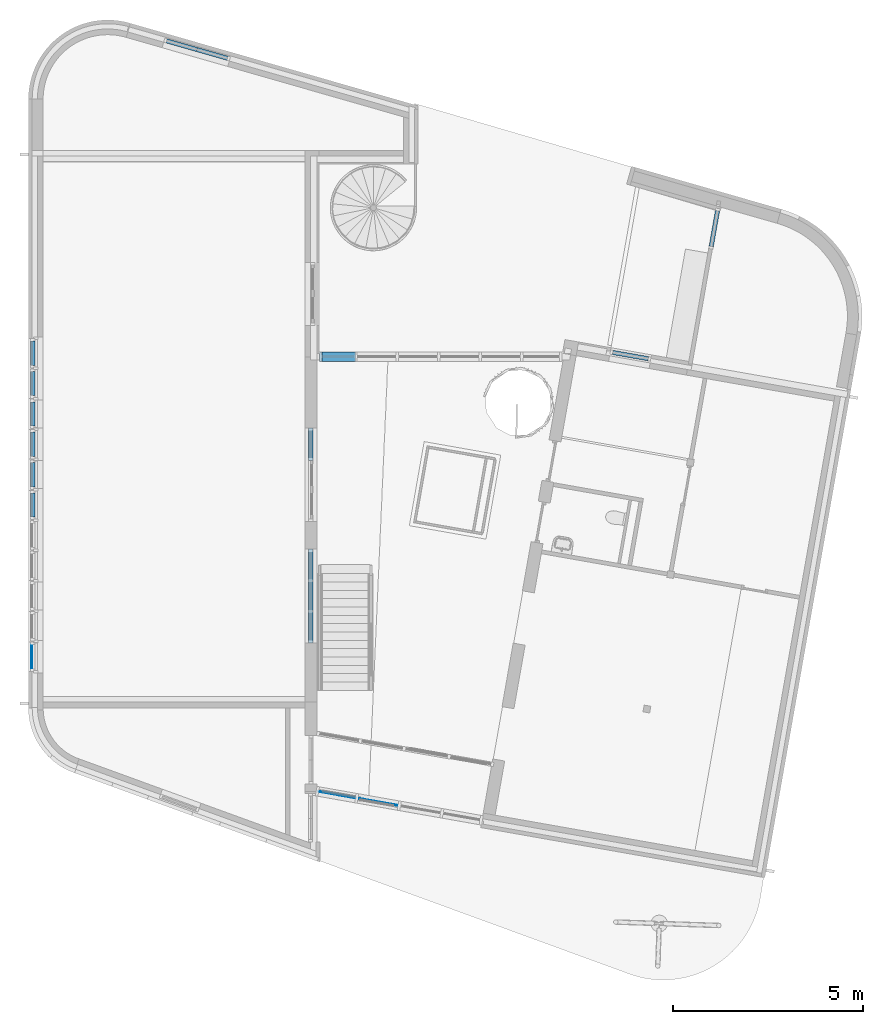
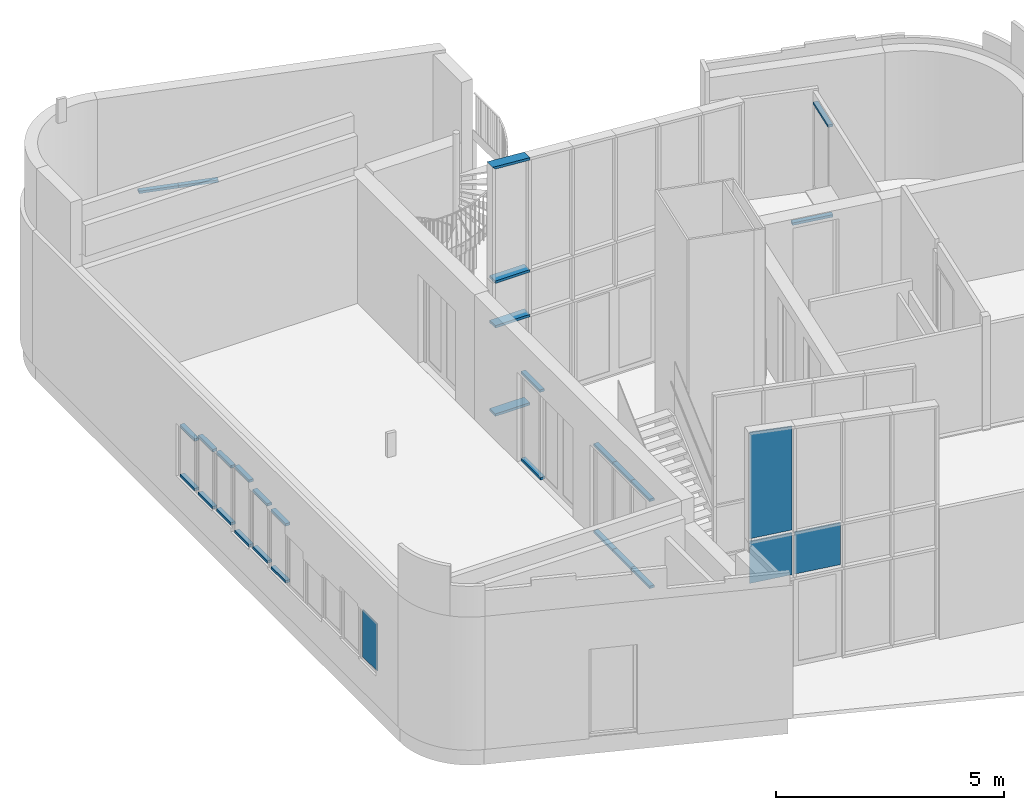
# One storey, part 7 of 21: 28 members, 4 plates, 14 elements without a shape of their own.
"""IFC2X3 building model written with IfcOpenShell, lengths in millimetres."""

from ifc_helpers import new_model, entity, si_unit, converted_unit, derived_unit, direction, frame, frame_2d, origin, origin_2d_with_axis, place, context, subcontext, project, spatial, polyline, rectangle, outline, extrude, clip, halfspace, source, transform, mapped, material, layer, layer_set, layer_usage, type_object, type_shapes, element, aggregate, save


model = new_model("IFC2X3")

# Units and contexts
model_context = context("Model", 3, precision=0.01, world=origin(), true_north=direction((6.12303176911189e-17, 1.0)))
body_context = subcontext(model_context, "Body", "Model", "MODEL_VIEW")
ifc_project = project(units=[si_unit("LENGTHUNIT", "METRE", prefix="MILLI"), si_unit("AREAUNIT", "SQUARE_METRE"), si_unit("VOLUMEUNIT", "CUBIC_METRE"), converted_unit("PLANEANGLEUNIT", "DEGREE", entity("IfcRatioMeasure", 0.0174532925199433), si_unit("PLANEANGLEUNIT", "RADIAN"), dimensions=[0, 0, 0, 0, 0, 0, 0]), si_unit("MASSUNIT", "GRAM", prefix="KILO"), derived_unit("MASSDENSITYUNIT", [(si_unit("MASSUNIT", "GRAM", prefix="KILO"), 1), (si_unit("LENGTHUNIT", "METRE"), -3)]), si_unit("TIMEUNIT", "SECOND"), si_unit("FREQUENCYUNIT", "HERTZ"), si_unit("THERMODYNAMICTEMPERATUREUNIT", "DEGREE_CELSIUS"), derived_unit("THERMALTRANSMITTANCEUNIT", [(si_unit("MASSUNIT", "GRAM", prefix="KILO"), 1), (si_unit("THERMODYNAMICTEMPERATUREUNIT", "KELVIN"), -1), (si_unit("TIMEUNIT", "SECOND"), -3)]), derived_unit("VOLUMETRICFLOWRATEUNIT", [(si_unit("LENGTHUNIT", "METRE"), 3), (si_unit("TIMEUNIT", "SECOND"), -1)]), si_unit("ELECTRICCURRENTUNIT", "AMPERE"), si_unit("ELECTRICVOLTAGEUNIT", "VOLT"), si_unit("POWERUNIT", "WATT"), si_unit("FORCEUNIT", "NEWTON", prefix="KILO"), si_unit("ILLUMINANCEUNIT", "LUX"), si_unit("LUMINOUSFLUXUNIT", "LUMEN"), si_unit("LUMINOUSINTENSITYUNIT", "CANDELA"), derived_unit("USERDEFINED", [(si_unit("MASSUNIT", "GRAM", prefix="KILO"), -1), (si_unit("LENGTHUNIT", "METRE"), -2), (si_unit("TIMEUNIT", "SECOND"), 3), (si_unit("LUMINOUSFLUXUNIT", "LUMEN"), 1)]), derived_unit("LINEARVELOCITYUNIT", [(si_unit("LENGTHUNIT", "METRE"), 1), (si_unit("TIMEUNIT", "SECOND"), -1)]), si_unit("PRESSUREUNIT", "PASCAL"), derived_unit("USERDEFINED", [(si_unit("LENGTHUNIT", "METRE"), -2), (si_unit("MASSUNIT", "GRAM", prefix="KILO"), 1), (si_unit("TIMEUNIT", "SECOND"), -2)])], contexts=[model_context])

# Site, building, storey
site_placement = place(None, origin())
site = spatial("IfcSite", under=ifc_project, at=site_placement, Name="<Kadaster Gemeente>;<Kadaster nummer>;<Kadaster sectie>", CompositionType="ELEMENT")
building_placement = place(site_placement, origin())
building = spatial("IfcBuilding", under=site, at=building_placement, Name="JRCZ Middelburg", CompositionType="ELEMENT")
storey_placement = place(building_placement, origin())
storey = spatial("IfcBuildingStorey", under=building, at=storey_placement, Name="00 begane grond", CompositionType="ELEMENT", Elevation=0.0)

# Curtain wall, members
curtain_wall_type_1 = type_object("IfcCurtainWallType", Name="Curtain Wall:NLRS_32_CW_067x114", PredefinedType="NOTDEFINED")
curtain_wall_1_placement = place(storey_placement, origin())
curtain_wall_1 = element("IfcCurtainWall", 1, at=curtain_wall_1_placement, inside=storey, type_object=curtain_wall_type_1, Name="Curtain Wall:NLRS_32_CW_067x114", ObjectType="Curtain Wall:NLRS_32_CW_067x114")
ifc_material_1 = material(Name="RBM_i2_binnenkozijn")
member_type_1 = type_object("IfcMemberType", Name="32_CWM_067x114", PredefinedType="MEMBER")
shared_shape_1 = source(origin(), body_context, "Body", "SweptSolid", [
    extrude(rectangle(XDim=113.999999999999, YDim=67.0, at=origin_2d_with_axis()), frame((-33.5, 0.0, -833.5000003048), z_axis=(0.0, 0.0, 1.0), x_axis=(0.0, -1.0, 0.0)), (0.0, 0.0, 1.0), 833.5000003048),
])
type_shapes(member_type_1, [shared_shape_1])
member_1_placement = place(storey_placement, frame((17203.0, 12400.0, 2400.0), z_axis=(0.0, 1.0, 0.0), x_axis=(0.0, 0.0, 1.0)))
member_1 = element("IfcMember", 2, at=member_1_placement, type_object=member_type_1, material=ifc_material_1, Name="Rectangular Mullion:32_CWM_067x114", ObjectType="Rectangular Mullion:32_CWM_067x114", context=body_context, shape_type="MappedRepresentation", body=[
    mapped(shared_shape_1, transform((0.0, 0.0, 0.0), scale=1.0)),
])
member_type_2 = type_object("IfcMemberType", Name="32_CWM_067x114", PredefinedType="MEMBER")
shared_shape_2 = source(origin(), body_context, "Body", "SweptSolid", [
    extrude(rectangle(XDim=113.999999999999, YDim=67.0, at=origin_2d_with_axis()), frame((-33.5, 0.0, -800.0), z_axis=(0.0, 0.0, 1.0), x_axis=(0.0, -1.0, 0.0)), (0.0, 0.0, 1.0), 800.0),
])
type_shapes(member_type_2, [shared_shape_2])
member_2_placement = place(storey_placement, frame((17203.0, 13200.0, 2400.0), z_axis=(0.0, 1.0, 0.0), x_axis=(0.0, 0.0, 1.0)))
member_2 = element("IfcMember", 3, at=member_2_placement, type_object=member_type_2, material=ifc_material_1, Name="Rectangular Mullion:32_CWM_067x114", ObjectType="Rectangular Mullion:32_CWM_067x114", context=body_context, shape_type="MappedRepresentation", body=[
    mapped(shared_shape_2, transform((0.0, 0.0, 0.0), scale=1.0)),
])
member_type_3 = type_object("IfcMemberType", Name="32_CWM_067x114", PredefinedType="MEMBER")
shared_shape_3 = source(origin(), body_context, "Body", "SweptSolid", [
    extrude(rectangle(XDim=113.999999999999, YDim=67.0, at=origin_2d_with_axis()), frame((-33.5, 0.0, -833.5000003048), z_axis=(0.0, 0.0, 1.0), x_axis=(0.0, -1.0, 0.0)), (0.0, 0.0, 1.0), 833.5000003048),
])
type_shapes(member_type_3, [shared_shape_3])
member_3_placement = place(storey_placement, frame((17203.0, 11566.4999996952, 0.0), z_axis=(0.0, -1.0, 0.0), x_axis=(0.0, 0.0, -1.0)))
member_3 = element("IfcMember", 4, at=member_3_placement, type_object=member_type_3, material=ifc_material_1, Name="Rectangular Mullion:32_CWM_067x114", ObjectType="Rectangular Mullion:32_CWM_067x114", context=body_context, shape_type="MappedRepresentation", body=[
    mapped(shared_shape_3, transform((0.0, 0.0, 0.0), scale=1.0)),
])
member_type_4 = type_object("IfcMemberType", Name="32_CWM_067x114", PredefinedType="MEMBER")
shared_shape_4 = source(origin(), body_context, "Body", "SweptSolid", [
    extrude(rectangle(XDim=113.999999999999, YDim=67.0, at=origin_2d_with_axis()), frame((-33.5, 0.0, -800.0), z_axis=(0.0, 0.0, 1.0), x_axis=(0.0, -1.0, 0.0)), (0.0, 0.0, 1.0), 800.0),
])
type_shapes(member_type_4, [shared_shape_4])
member_4_placement = place(storey_placement, frame((17203.0, 12400.0, 0.0), z_axis=(0.0, -1.0, 0.0), x_axis=(0.0, 0.0, -1.0)))
member_4 = element("IfcMember", 5, at=member_4_placement, type_object=member_type_4, material=ifc_material_1, Name="Rectangular Mullion:32_CWM_067x114", ObjectType="Rectangular Mullion:32_CWM_067x114", context=body_context, shape_type="MappedRepresentation", body=[
    mapped(shared_shape_4, transform((0.0, 0.0, 0.0), scale=1.0)),
])
member_type_5 = type_object("IfcMemberType", Name="32_CWM_067x114", PredefinedType="MEMBER")
shared_shape_5 = source(origin(), body_context, "Body", "SweptSolid", [
    extrude(rectangle(XDim=113.999999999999, YDim=67.0, at=origin_2d_with_axis()), frame((-33.5, 0.0, -833.4999996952), z_axis=(0.0, 0.0, 1.0), x_axis=(0.0, -1.0, 0.0)), (0.0, 0.0, 1.0), 833.4999996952),
])
type_shapes(member_type_5, [shared_shape_5])
member_5_placement = place(storey_placement, frame((17203.0, 13200.0, 0.0), z_axis=(0.0, -1.0, 0.0), x_axis=(0.0, 0.0, -1.0)))
member_5 = element("IfcMember", 6, at=member_5_placement, type_object=member_type_5, material=ifc_material_1, Name="Rectangular Mullion:32_CWM_067x114", ObjectType="Rectangular Mullion:32_CWM_067x114", context=body_context, shape_type="MappedRepresentation", body=[
    mapped(shared_shape_5, transform((0.0, 0.0, 0.0), scale=1.0)),
])
member_type_6 = type_object("IfcMemberType", Name="32_CWM_067x114", PredefinedType="MEMBER")
shared_shape_6 = source(origin(), body_context, "Body", "SweptSolid", [
    extrude(rectangle(XDim=113.999999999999, YDim=67.0, at=origin_2d_with_axis()), frame((-33.5, 0.0, -833.4999996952), z_axis=(0.0, 0.0, 1.0), x_axis=(0.0, -1.0, 0.0)), (0.0, 0.0, 1.0), 833.4999996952),
])
type_shapes(member_type_6, [shared_shape_6])
member_6_placement = place(storey_placement, frame((17203.0, 14033.5, 2400.0), z_axis=(0.0, 1.0, 0.0), x_axis=(0.0, 0.0, 1.0)))
member_6 = element("IfcMember", 7, at=member_6_placement, type_object=member_type_6, material=ifc_material_1, Name="Rectangular Mullion:32_CWM_067x114", ObjectType="Rectangular Mullion:32_CWM_067x114", context=body_context, shape_type="MappedRepresentation", body=[
    mapped(shared_shape_6, transform((0.0, 0.0, 0.0), scale=1.0)),
])
aggregate(curtain_wall_1, [member_1, member_2, member_3, member_4, member_5, member_6])

curtain_wall_2_placement = place(storey_placement, origin())
curtain_wall_2 = element("IfcCurtainWall", 8, at=curtain_wall_2_placement, inside=storey, type_object=curtain_wall_type_1, Name="Curtain Wall:NLRS_32_CW_067x114", ObjectType="Curtain Wall:NLRS_32_CW_067x114")
member_type_7 = type_object("IfcMemberType", Name="32_CWM_067x114", PredefinedType="MEMBER")
shared_shape_7 = source(origin(), body_context, "Body", "SweptSolid", [
    extrude(rectangle(XDim=113.999999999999, YDim=67.0, at=origin_2d_with_axis()), frame((-33.5, 0.0, -867.0), z_axis=(0.0, 0.0, 1.0), x_axis=(0.0, -1.0, 0.0)), (0.0, 0.0, 1.0), 867.0),
])
type_shapes(member_type_7, [shared_shape_7])
member_7_placement = place(storey_placement, frame((17203.0, 16366.5, 0.0), z_axis=(0.0, -1.0, 0.0), x_axis=(0.0, 0.0, -1.0)))
member_7 = element("IfcMember", 9, at=member_7_placement, type_object=member_type_7, material=ifc_material_1, Name="Rectangular Mullion:32_CWM_067x114", ObjectType="Rectangular Mullion:32_CWM_067x114", context=body_context, shape_type="MappedRepresentation", body=[
    mapped(shared_shape_7, transform((0.0, 0.0, 0.0), scale=1.0)),
])
member_type_8 = type_object("IfcMemberType", Name="32_CWM_067x114", PredefinedType="MEMBER")
shared_shape_8 = source(origin(), body_context, "Body", "SweptSolid", [
    extrude(rectangle(XDim=113.999999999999, YDim=67.0, at=origin_2d_with_axis()), frame((-33.5, 0.0, -833.500000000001), z_axis=(0.0, 0.0, 1.0), x_axis=(0.0, -1.0, 0.0)), (0.0, 0.0, 1.0), 833.5),
])
type_shapes(member_type_8, [shared_shape_8])
member_8_placement = place(storey_placement, frame((17203.0, 17233.5, 2400.0), z_axis=(0.0, 1.0, 0.0), x_axis=(0.0, 0.0, 1.0)))
member_8 = element("IfcMember", 10, at=member_8_placement, type_object=member_type_8, material=ifc_material_1, Name="Rectangular Mullion:32_CWM_067x114", ObjectType="Rectangular Mullion:32_CWM_067x114", context=body_context, shape_type="MappedRepresentation", body=[
    mapped(shared_shape_8, transform((0.0, 0.0, 0.0), scale=1.0)),
])
aggregate(curtain_wall_2, [member_7, member_8])

curtain_wall_type_2 = type_object("IfcCurtainWallType", Name="Curtain Wall:NLRS_31_CW_Ontwerpkozijn 067x114", PredefinedType="NOTDEFINED")
curtain_wall_3_placement = place(storey_placement, origin())
curtain_wall_3 = element("IfcCurtainWall", 11, at=curtain_wall_3_placement, inside=storey, type_object=curtain_wall_type_2, Name="Curtain Wall:NLRS_31_CW_Ontwerpkozijn 067x114", ObjectType="Curtain Wall:NLRS_31_CW_Ontwerpkozijn 067x114")
ifc_material_2 = material(Name="RBM_a_kozijn")
member_type_9 = type_object("IfcMemberType", Name="31_CWM_067x114", PredefinedType="MEMBER")
shared_shape_9 = source(origin(), body_context, "Body", "SweptSolid", [
    extrude(rectangle(XDim=113.999999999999, YDim=67.0, at=frame_2d((-3.19744231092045e-14, 0.0), x_axis=(1.0, 0.0))), frame((-33.5, -57.0, -900.0), z_axis=(0.0, 0.0, 1.0), x_axis=(0.0, -1.0, 0.0)), (0.0, 0.0, 1.0), 900.000000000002),
])
type_shapes(member_type_9, [shared_shape_9])
member_9_placement = place(storey_placement, frame((15057.0718816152, 26902.0542574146, 2400.0), z_axis=(0.961261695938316, -0.275637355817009, 0.0), x_axis=(0.0, 0.0, 1.0)))
member_9 = element("IfcMember", 12, at=member_9_placement, type_object=member_type_9, material=ifc_material_2, Name="Rectangular Mullion:31_CWM_067x114", ObjectType="Rectangular Mullion:31_CWM_067x114", context=body_context, shape_type="MappedRepresentation", body=[
    mapped(shared_shape_9, transform((0.0, 0.0, 0.0), scale=1.0)),
])
member_type_10 = type_object("IfcMemberType", Name="31_CWM_067x114", PredefinedType="MEMBER")
shared_shape_10 = source(origin(), body_context, "Body", "SweptSolid", [
    extrude(rectangle(XDim=113.999999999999, YDim=67.0, at=frame_2d((-3.19744231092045e-14, 0.0), x_axis=(1.0, 0.0))), frame((-33.5, -57.0, -900.0), z_axis=(0.0, 0.0, 1.0), x_axis=(0.0, -1.0, 0.0)), (0.0, 0.0, 1.0), 900.000000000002),
])
type_shapes(member_type_10, [shared_shape_10])
member_10_placement = place(storey_placement, frame((14191.9363552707, 27150.1278776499, 2400.0), z_axis=(0.961261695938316, -0.27563735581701, 0.0), x_axis=(0.0, 0.0, 1.0)))
member_10 = element("IfcMember", 13, at=member_10_placement, type_object=member_type_10, material=ifc_material_2, Name="Rectangular Mullion:31_CWM_067x114", ObjectType="Rectangular Mullion:31_CWM_067x114", context=body_context, shape_type="MappedRepresentation", body=[
    mapped(shared_shape_10, transform((0.0, 0.0, 0.0), scale=1.0)),
])
aggregate(curtain_wall_3, [member_9, member_10])

# Curtain wall, member
curtain_wall_type_3 = type_object("IfcCurtainWallType", Name="Curtain Wall:NLRS_31_CW_Ontwerpkozijn 067x114 2", PredefinedType="NOTDEFINED")
curtain_wall_4_placement = place(storey_placement, origin())
curtain_wall_4 = element("IfcCurtainWall", 14, at=curtain_wall_4_placement, inside=storey, type_object=curtain_wall_type_3, Name="Curtain Wall:NLRS_31_CW_Ontwerpkozijn 067x114 2", ObjectType="Curtain Wall:NLRS_31_CW_Ontwerpkozijn 067x114 2")
member_type_11 = type_object("IfcMemberType", Name="31_CWM_067x114", PredefinedType="MEMBER")
shared_shape_11 = source(origin(), body_context, "Body", "SweptSolid", [
    extrude(rectangle(XDim=113.999999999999, YDim=67.0, at=origin_2d_with_axis()), frame((-33.5, 57.0, -641.0), z_axis=(0.0, 0.0, 1.0), x_axis=(0.0, -1.0, 0.0)), (0.0, 0.0, 1.0), 640.999999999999),
])
type_shapes(member_type_11, [shared_shape_11])
member_11_placement = place(storey_placement, frame((9931.0, 14879.4999999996, 2300.0), z_axis=(0.0, -1.0, 0.0), x_axis=(0.0, 0.0, 1.0)))
member_11 = element("IfcMember", 15, at=member_11_placement, type_object=member_type_11, material=ifc_material_2, Name="Rectangular Mullion:31_CWM_067x114", ObjectType="Rectangular Mullion:31_CWM_067x114", context=body_context, shape_type="MappedRepresentation", body=[
    mapped(shared_shape_11, transform((0.0, 0.0, 0.0), scale=1.0)),
])

curtain_wall_5_placement = place(storey_placement, origin())
curtain_wall_5 = element("IfcCurtainWall", 16, at=curtain_wall_5_placement, inside=storey, type_object=curtain_wall_type_3, Name="Curtain Wall:NLRS_31_CW_Ontwerpkozijn 067x114 2", ObjectType="Curtain Wall:NLRS_31_CW_Ontwerpkozijn 067x114 2")
member_12_placement = place(storey_placement, frame((9931.0, 15679.4999999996, 2350.0), z_axis=(0.0, -1.0, 0.0), x_axis=(0.0, 0.0, 1.0)))
member_12 = element("IfcMember", 17, at=member_12_placement, type_object=member_type_11, material=ifc_material_2, Name="Rectangular Mullion:31_CWM_067x114", ObjectType="Rectangular Mullion:31_CWM_067x114", context=body_context, shape_type="MappedRepresentation", body=[
    mapped(shared_shape_11, transform((0.0, 0.0, 0.0), scale=1.0)),
])

curtain_wall_6_placement = place(storey_placement, origin())
curtain_wall_6 = element("IfcCurtainWall", 18, at=curtain_wall_6_placement, inside=storey, type_object=curtain_wall_type_3, Name="Curtain Wall:NLRS_31_CW_Ontwerpkozijn 067x114 2", ObjectType="Curtain Wall:NLRS_31_CW_Ontwerpkozijn 067x114 2")
member_13_placement = place(storey_placement, frame((9931.0, 16479.4999999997, 2500.0), z_axis=(0.0, -1.0, 0.0), x_axis=(0.0, 0.0, 1.0)))
member_13 = element("IfcMember", 19, at=member_13_placement, type_object=member_type_11, material=ifc_material_2, Name="Rectangular Mullion:31_CWM_067x114", ObjectType="Rectangular Mullion:31_CWM_067x114", context=body_context, shape_type="MappedRepresentation", body=[
    mapped(shared_shape_11, transform((0.0, 0.0, 0.0), scale=1.0)),
])

curtain_wall_7_placement = place(storey_placement, origin())
curtain_wall_7 = element("IfcCurtainWall", 20, at=curtain_wall_7_placement, inside=storey, type_object=curtain_wall_type_3, Name="Curtain Wall:NLRS_31_CW_Ontwerpkozijn 067x114 2", ObjectType="Curtain Wall:NLRS_31_CW_Ontwerpkozijn 067x114 2")
member_14_placement = place(storey_placement, frame((9931.0, 18079.4999999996, 2350.0), z_axis=(0.0, -1.0, 0.0), x_axis=(0.0, 0.0, 1.0)))
member_14 = element("IfcMember", 21, at=member_14_placement, type_object=member_type_11, material=ifc_material_2, Name="Rectangular Mullion:31_CWM_067x114", ObjectType="Rectangular Mullion:31_CWM_067x114", context=body_context, shape_type="MappedRepresentation", body=[
    mapped(shared_shape_11, transform((0.0, 0.0, 0.0), scale=1.0)),
])

curtain_wall_8_placement = place(storey_placement, origin())
curtain_wall_8 = element("IfcCurtainWall", 22, at=curtain_wall_8_placement, inside=storey, type_object=curtain_wall_type_3, Name="Curtain Wall:NLRS_31_CW_Ontwerpkozijn 067x114 2", ObjectType="Curtain Wall:NLRS_31_CW_Ontwerpkozijn 067x114 2")
member_15_placement = place(storey_placement, frame((9931.0, 18879.4999999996, 2150.0), z_axis=(0.0, -1.0, 0.0), x_axis=(0.0, 0.0, 1.0)))
member_15 = element("IfcMember", 23, at=member_15_placement, type_object=member_type_11, material=ifc_material_2, Name="Rectangular Mullion:31_CWM_067x114", ObjectType="Rectangular Mullion:31_CWM_067x114", context=body_context, shape_type="MappedRepresentation", body=[
    mapped(shared_shape_11, transform((0.0, 0.0, 0.0), scale=1.0)),
])

curtain_wall_9_placement = place(storey_placement, origin())
curtain_wall_9 = element("IfcCurtainWall", 24, at=curtain_wall_9_placement, inside=storey, type_object=curtain_wall_type_3, Name="Curtain Wall:NLRS_31_CW_Ontwerpkozijn 067x114 2", ObjectType="Curtain Wall:NLRS_31_CW_Ontwerpkozijn 067x114 2")
member_16_placement = place(storey_placement, frame((9931.0, 17279.4999999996, 2400.0), z_axis=(0.0, -1.0, 0.0), x_axis=(0.0, 0.0, 1.0)))
member_16 = element("IfcMember", 25, at=member_16_placement, type_object=member_type_11, material=ifc_material_2, Name="Rectangular Mullion:31_CWM_067x114", ObjectType="Rectangular Mullion:31_CWM_067x114", context=body_context, shape_type="MappedRepresentation", body=[
    mapped(shared_shape_11, transform((0.0, 0.0, 0.0), scale=1.0)),
])

# Member
member_type_12 = type_object("IfcMemberType", Name="31_CWM_067x114", PredefinedType="MEMBER")
shared_shape_12 = source(origin(), body_context, "Body", "SweptSolid", [
    extrude(rectangle(XDim=113.999999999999, YDim=67.0, at=origin_2d_with_axis()), frame((-33.5, 57.0, -641.0), z_axis=(0.0, 0.0, 1.0), x_axis=(0.0, -1.0, 0.0)), (0.0, 0.0, 1.0), 640.999999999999),
])
type_shapes(member_type_12, [shared_shape_12])
member_17_placement = place(storey_placement, frame((9931.0, 15520.4999999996, 700.0), z_axis=(0.0, 1.0, 0.0), x_axis=(0.0, 0.0, -1.0)))
member_17 = element("IfcMember", 26, at=member_17_placement, type_object=member_type_12, material=ifc_material_2, Name="Rectangular Mullion:31_CWM_067x114", ObjectType="Rectangular Mullion:31_CWM_067x114", context=body_context, shape_type="MappedRepresentation", body=[
    mapped(shared_shape_12, transform((0.0, 0.0, 0.0), scale=1.0)),
])

aggregate(curtain_wall_4, [member_11, member_17])

member_18_placement = place(storey_placement, frame((9931.0, 16320.4999999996, 750.0), z_axis=(0.0, 1.0, 0.0), x_axis=(0.0, 0.0, -1.0)))
member_18 = element("IfcMember", 27, at=member_18_placement, type_object=member_type_12, material=ifc_material_2, Name="Rectangular Mullion:31_CWM_067x114", ObjectType="Rectangular Mullion:31_CWM_067x114", context=body_context, shape_type="MappedRepresentation", body=[
    mapped(shared_shape_12, transform((0.0, 0.0, 0.0), scale=1.0)),
])

aggregate(curtain_wall_5, [member_12, member_18])

member_19_placement = place(storey_placement, frame((9931.0, 17120.4999999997, 700.0), z_axis=(0.0, 1.0, 0.0), x_axis=(0.0, 0.0, -1.0)))
member_19 = element("IfcMember", 28, at=member_19_placement, type_object=member_type_12, material=ifc_material_2, Name="Rectangular Mullion:31_CWM_067x114", ObjectType="Rectangular Mullion:31_CWM_067x114", context=body_context, shape_type="MappedRepresentation", body=[
    mapped(shared_shape_12, transform((0.0, 0.0, 0.0), scale=1.0)),
])

aggregate(curtain_wall_6, [member_13, member_19])

member_20_placement = place(storey_placement, frame((9931.0, 18720.4999999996, 750.0), z_axis=(0.0, 1.0, 0.0), x_axis=(0.0, 0.0, -1.0)))
member_20 = element("IfcMember", 29, at=member_20_placement, type_object=member_type_12, material=ifc_material_2, Name="Rectangular Mullion:31_CWM_067x114", ObjectType="Rectangular Mullion:31_CWM_067x114", context=body_context, shape_type="MappedRepresentation", body=[
    mapped(shared_shape_12, transform((0.0, 0.0, 0.0), scale=1.0)),
])

aggregate(curtain_wall_7, [member_14, member_20])

member_21_placement = place(storey_placement, frame((9931.0, 19520.4999999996, 750.0), z_axis=(0.0, 1.0, 0.0), x_axis=(0.0, 0.0, -1.0)))
member_21 = element("IfcMember", 30, at=member_21_placement, type_object=member_type_12, material=ifc_material_2, Name="Rectangular Mullion:31_CWM_067x114", ObjectType="Rectangular Mullion:31_CWM_067x114", context=body_context, shape_type="MappedRepresentation", body=[
    mapped(shared_shape_12, transform((0.0, 0.0, 0.0), scale=1.0)),
])

aggregate(curtain_wall_8, [member_15, member_21])

member_22_placement = place(storey_placement, frame((9931.0, 17920.4999999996, 800.0), z_axis=(0.0, 1.0, 0.0), x_axis=(0.0, 0.0, -1.0)))
member_22 = element("IfcMember", 31, at=member_22_placement, type_object=member_type_12, material=ifc_material_2, Name="Rectangular Mullion:31_CWM_067x114", ObjectType="Rectangular Mullion:31_CWM_067x114", context=body_context, shape_type="MappedRepresentation", body=[
    mapped(shared_shape_12, transform((0.0, 0.0, 0.0), scale=1.0)),
])

aggregate(curtain_wall_9, [member_16, member_22])

# Curtain wall, members
curtain_wall_type_4 = type_object("IfcCurtainWallType", Name="Curtain Wall:Vliesgevel C", PredefinedType="NOTDEFINED")
curtain_wall_10_placement = place(storey_placement, origin())
curtain_wall_10 = element("IfcCurtainWall", 32, at=curtain_wall_10_placement, inside=storey, type_object=curtain_wall_type_4, Name="Curtain Wall:Vliesgevel C", ObjectType="Curtain Wall:Vliesgevel C")
ifc_material_3 = material(Name="RBM_a_kozijn licht")
member_type_13 = type_object("IfcMemberType", Name="31_CWM_067x114 vliesgevel", PredefinedType="MEMBER")
shared_shape_13 = source(origin(), body_context, "Body", "SweptSolid", [
    extrude(rectangle(XDim=250.0, YDim=67.0, at=origin_2d_with_axis()), frame((-33.5, -57.0, -879.487756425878), z_axis=(0.0, 0.0, 1.0), x_axis=(0.0, -1.0, 0.0)), (0.0, 0.0, 1.0), 879.487756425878),
])
type_shapes(member_type_13, [shared_shape_13])
member_23_placement = place(storey_placement, frame((17506.9418785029, 19046.62338787, 0.0), z_axis=(-1.0, 0.0, 0.0), x_axis=(0.0, 0.0, -1.0)))
member_23 = element("IfcMember", 33, at=member_23_placement, type_object=member_type_13, material=ifc_material_3, Name="Rectangular Mullion:31_CWM_067x114 vliesgevel", ObjectType="Rectangular Mullion:31_CWM_067x114 vliesgevel", context=body_context, shape_type="MappedRepresentation", body=[
    mapped(shared_shape_13, transform((0.0, 0.0, 0.0), scale=1.0)),
])
member_type_14 = type_object("IfcMemberType", Name="31_CWM_067x114 vliesgevel", PredefinedType="MEMBER")
shared_shape_14 = source(origin(), body_context, "Body", "SweptSolid", [
    extrude(rectangle(XDim=250.0, YDim=67.0, at=origin_2d_with_axis()), frame((0.0, -57.0, -879.487756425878), z_axis=(0.0, 0.0, 1.0), x_axis=(0.0, -1.0, 0.0)), (0.0, 0.0, 1.0), 879.487756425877),
])
type_shapes(member_type_14, [shared_shape_14])
member_24_placement = place(storey_placement, frame((18386.4296349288, 19046.62338787, 2400.0), z_axis=(1.0, 0.0, 0.0), x_axis=(0.0, 0.0, 1.0)))
member_24 = element("IfcMember", 34, at=member_24_placement, type_object=member_type_14, material=ifc_material_3, Name="Rectangular Mullion:31_CWM_067x114 vliesgevel", ObjectType="Rectangular Mullion:31_CWM_067x114 vliesgevel", context=body_context, shape_type="MappedRepresentation", body=[
    mapped(shared_shape_14, transform((0.0, 0.0, 0.0), scale=1.0)),
])
member_25_placement = place(storey_placement, frame((18386.4296349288, 19046.62338787, 3600.0), z_axis=(1.0, 0.0, 0.0), x_axis=(0.0, 0.0, 1.0)))
member_25 = element("IfcMember", 35, at=member_25_placement, type_object=member_type_14, material=ifc_material_3, Name="Rectangular Mullion:31_CWM_067x114 vliesgevel", ObjectType="Rectangular Mullion:31_CWM_067x114 vliesgevel", context=body_context, shape_type="MappedRepresentation", body=[
    mapped(shared_shape_14, transform((0.0, 0.0, 0.0), scale=1.0)),
])
member_type_15 = type_object("IfcMemberType", Name="31_CWM_067x114 vliesgevel", PredefinedType="MEMBER")
shared_shape_15 = source(origin(), body_context, "Body", "Clipping", [
    clip(extrude(rectangle(XDim=250.0, YDim=67.0, at=origin_2d_with_axis()), frame((-33.5, -57.0, -949.065972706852), z_axis=(0.0, 0.0, 1.0), x_axis=(0.0, -1.0, 0.0)), (0.0, 0.0, 1.0), 949.065972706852), halfspace(frame((0.0, -304.8, -949.06597270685), z_axis=(-0.732686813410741, 0.0, -0.680565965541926), x_axis=(-0.680565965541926, 0.0, 0.732686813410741)), False)),
])
type_shapes(member_type_15, [shared_shape_15])
member_26_placement = place(storey_placement, frame((18386.4296349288, 19046.62338787, 6636.91462293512), z_axis=(0.997283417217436, 0.0, -0.0736599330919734), x_axis=(0.0736599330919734, 0.0, 0.997283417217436)))
member_26 = element("IfcMember", 36, at=member_26_placement, type_object=member_type_15, material=ifc_material_3, Name="Rectangular Mullion:31_CWM_067x114 vliesgevel", ObjectType="Rectangular Mullion:31_CWM_067x114 vliesgevel", context=body_context, shape_type="MappedRepresentation", body=[
    mapped(shared_shape_15, transform((0.0, 0.0, 0.0), scale=1.0)),
])
aggregate(curtain_wall_10, [member_23, member_24, member_25, member_26])

# Curtain wall, member
curtain_wall_11_placement = place(storey_placement, origin())
curtain_wall_11 = element("IfcCurtainWall", 37, at=curtain_wall_11_placement, inside=storey, type_object=curtain_wall_type_2, Name="Curtain Wall:NLRS_31_CW_Ontwerpkozijn 067x114", ObjectType="Curtain Wall:NLRS_31_CW_Ontwerpkozijn 067x114")
member_type_16 = type_object("IfcMemberType", Name="31_CWM_067x114", PredefinedType="MEMBER")
shared_shape_16 = source(origin(), body_context, "Body", "SweptSolid", [
    extrude(rectangle(XDim=113.999999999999, YDim=67.0, at=origin_2d_with_axis()), frame((-33.5, 57.0, -950.0), z_axis=(0.0, 0.0, 1.0), x_axis=(0.0, -1.0, 0.0)), (0.0, 0.0, 1.0), 949.999999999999),
])
type_shapes(member_type_16, [shared_shape_16])
member_27_placement = place(storey_placement, frame((25155.8696923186, 19163.7294289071, 2400.0), z_axis=(-0.984807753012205, 0.173648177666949, 0.0), x_axis=(0.0, 0.0, 1.0)))
member_27 = element("IfcMember", 38, at=member_27_placement, type_object=member_type_16, material=ifc_material_2, Name="Rectangular Mullion:31_CWM_067x114", ObjectType="Rectangular Mullion:31_CWM_067x114", context=body_context, shape_type="MappedRepresentation", body=[
    mapped(shared_shape_16, transform((0.0, 0.0, 0.0), scale=1.0)),
])
aggregate(curtain_wall_11, [member_27])

curtain_wall_12_placement = place(storey_placement, origin())
curtain_wall_12 = element("IfcCurtainWall", 39, at=curtain_wall_12_placement, inside=storey, type_object=curtain_wall_type_2, Name="Curtain Wall:NLRS_31_CW_Ontwerpkozijn 067x114", ObjectType="Curtain Wall:NLRS_31_CW_Ontwerpkozijn 067x114")
member_28_placement = place(storey_placement, frame((27817.8061197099, 22005.3604702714, 2400.0), z_axis=(-0.173648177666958, -0.984807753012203, 0.0), x_axis=(0.0, 0.0, 1.0)))
member_28 = element("IfcMember", 40, at=member_28_placement, type_object=member_type_16, material=ifc_material_2, Name="Rectangular Mullion:31_CWM_067x114", ObjectType="Rectangular Mullion:31_CWM_067x114", context=body_context, shape_type="MappedRepresentation", body=[
    mapped(shared_shape_16, transform((0.0, 0.0, 0.0), scale=1.0)),
])
aggregate(curtain_wall_12, [member_28])

# Curtain wall, plate
curtain_wall_13_placement = place(storey_placement, origin())
curtain_wall_13 = element("IfcCurtainWall", 41, at=curtain_wall_13_placement, inside=storey, type_object=curtain_wall_type_3, Name="Curtain Wall:NLRS_31_CW_Ontwerpkozijn 067x114 2", ObjectType="Curtain Wall:NLRS_31_CW_Ontwerpkozijn 067x114 2")
ifc_material_4 = material(Name="<Unnamed>")
ifc_layer_1 = layer(ifc_material_4, 24.0)
ifc_layer_set_1 = layer_set([ifc_layer_1], Name="System Panel:31_CWP_glas_2")
ifc_layer_usage_1 = layer_usage(ifc_layer_set_1, "AXIS3", "POSITIVE", 0.278871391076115)
plate_type_1 = type_object("IfcPlateType", Name="31_CWP_glas_2", PredefinedType="CURTAIN_PANEL", material=ifc_layer_set_1)
shared_shape_17 = source(origin(), body_context, "Body", "SweptSolid", [
    extrude(rectangle(XDim=24.0, YDim=640.999999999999, at=frame_2d((-7.99360577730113e-15, 0.0), x_axis=(1.0, 0.0))), frame((0.0, -85.0, 0.0), z_axis=(0.0, 0.0, 1.0), x_axis=(0.0, 1.0, 0.0)), (0.0, 0.0, 1.0), 1266.0),
])
type_shapes(plate_type_1, [shared_shape_17])
plate_1_placement = place(curtain_wall_13_placement, frame((9931.0, 11200.0, 767.0), z_axis=(0.0, 0.0, 1.0), x_axis=(0.0, -1.0, 0.0)))
plate_1 = element("IfcPlate", 42, at=plate_1_placement, type_object=plate_type_1, material=ifc_layer_usage_1, Name="System Panel:31_CWP_glas_2", ObjectType="System Panel:31_CWP_glas_2", context=body_context, shape_type="MappedRepresentation", body=[
    mapped(shared_shape_17, transform((0.0, 0.0, 0.0), scale=1.0)),
])
aggregate(curtain_wall_13, [plate_1])

# Curtain wall, plates
curtain_wall_type_5 = type_object("IfcCurtainWallType", Name="Curtain Wall:vliesgevel A", PredefinedType="NOTDEFINED")
curtain_wall_14_placement = place(storey_placement, origin())
curtain_wall_14 = element("IfcCurtainWall", 43, at=curtain_wall_14_placement, inside=storey, type_object=curtain_wall_type_5, Name="Curtain Wall:vliesgevel A", ObjectType="Curtain Wall:vliesgevel A")
ifc_layer_2 = layer(ifc_material_4, 24.0)
ifc_layer_set_2 = layer_set([ifc_layer_2], Name="System Panel:31_CWP_glas_1")
ifc_layer_usage_2 = layer_usage(ifc_layer_set_2, "AXIS3", "POSITIVE", 0.187007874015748)
plate_type_2 = type_object("IfcPlateType", Name="31_CWP_glas_1", PredefinedType="CURTAIN_PANEL", material=ifc_layer_set_2)
shared_shape_18 = source(origin(), body_context, "Body", "SweptSolid", [
    extrude(rectangle(XDim=24.0, YDim=1072.5587529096, at=frame_2d((-4.44089209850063e-15, 3.41060513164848e-13), x_axis=(1.0, 0.0))), frame((0.0, 57.0, 0.0), z_axis=(0.0, 0.0, 1.0), x_axis=(0.0, 1.0, 0.0)), (0.0, 0.0, 1.0), 1133.0),
])
type_shapes(plate_type_2, [shared_shape_18])
plate_2_placement = place(curtain_wall_14_placement, frame((18987.6268686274, 7425.50352755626, 2433.5), z_axis=(0.0, 0.0, 1.0), x_axis=(-0.984807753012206, 0.173648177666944, 0.0)))
plate_2 = element("IfcPlate", 44, at=plate_2_placement, type_object=plate_type_2, material=ifc_layer_usage_2, Name="System Panel:31_CWP_glas_1", ObjectType="System Panel:31_CWP_glas_1", context=body_context, shape_type="MappedRepresentation", body=[
    mapped(shared_shape_18, transform((0.0, 0.0, 0.0), scale=1.0)),
])
ifc_layer_usage_3 = layer_usage(ifc_layer_set_2, "AXIS3", "POSITIVE", 0.187007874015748)
plate_type_3 = type_object("IfcPlateType", Name="31_CWP_glas_1", PredefinedType="CURTAIN_PANEL", material=ifc_layer_set_2)
shared_shape_19 = source(origin(), body_context, "Body", "SweptSolid", [
    extrude(rectangle(XDim=24.0, YDim=985.137514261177, at=frame_2d((-3.5527136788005e-15, -1.4210854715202e-13), x_axis=(1.0, 0.0))), frame((0.0, 57.0, 0.0), z_axis=(0.0, 0.0, 1.0), x_axis=(0.0, 1.0, 0.0)), (0.0, 0.0, 1.0), 1133.0),
])
type_shapes(plate_type_3, [shared_shape_19])
plate_3_placement = place(curtain_wall_14_placement, frame((17908.4271305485, 7615.79555895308, 2433.5), z_axis=(0.0, 0.0, 1.0), x_axis=(-0.984807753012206, 0.173648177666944, 0.0)))
plate_3 = element("IfcPlate", 45, at=plate_3_placement, type_object=plate_type_3, material=ifc_layer_usage_3, Name="System Panel:31_CWP_glas_1", ObjectType="System Panel:31_CWP_glas_1", context=body_context, shape_type="MappedRepresentation", body=[
    mapped(shared_shape_19, transform((0.0, 0.0, 0.0), scale=1.0)),
])
ifc_layer_usage_4 = layer_usage(ifc_layer_set_2, "AXIS3", "POSITIVE", 0.187007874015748)
plate_type_4 = type_object("IfcPlateType", Name="31_CWP_glas_1", PredefinedType="CURTAIN_PANEL", material=ifc_layer_set_2)
shared_shape_20 = source(origin(), body_context, "Body", "SweptSolid", [
    extrude(outline(polyline([(-1410.95948250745, -492.568757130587), (1374.01682572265, -492.568757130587), (1447.90213929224, 492.568757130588), (-1410.95948250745, 492.568757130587), (-1410.95948250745, -492.568757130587)])), frame((0.0, 45.0, 1410.95948250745), z_axis=(0.0, 1.0, 0.0), x_axis=(0.0, 0.0, 1.0)), (0.0, 0.0, 1.0), 24.0),
])
type_shapes(plate_type_4, [shared_shape_20])
plate_4_placement = place(curtain_wall_14_placement, frame((17908.4271305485, 7615.79555895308, 3633.5), z_axis=(0.0, 0.0, 1.0), x_axis=(-0.984807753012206, 0.173648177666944, 0.0)))
plate_4 = element("IfcPlate", 46, at=plate_4_placement, type_object=plate_type_4, material=ifc_layer_usage_4, Name="System Panel:31_CWP_glas_1", ObjectType="System Panel:31_CWP_glas_1", context=body_context, shape_type="MappedRepresentation", body=[
    mapped(shared_shape_20, transform((0.0, 0.0, 0.0), scale=1.0)),
])
aggregate(curtain_wall_14, [plate_2, plate_3, plate_4])

save(model, "model.ifc")
